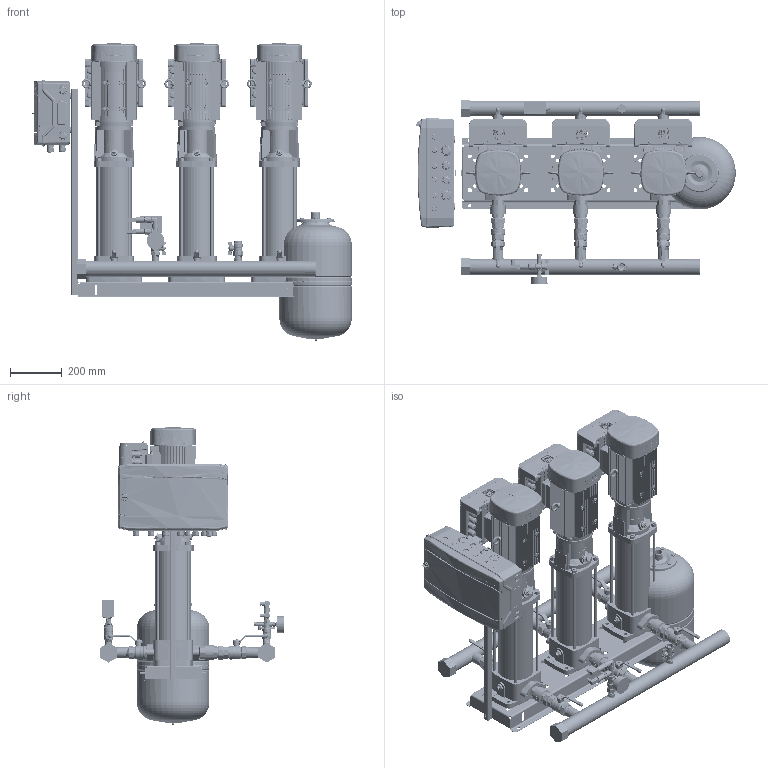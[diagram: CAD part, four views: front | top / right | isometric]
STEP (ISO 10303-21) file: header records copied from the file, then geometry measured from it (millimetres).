
FILE_DESCRIPTION(('CATIA V5 STEP Exchange','CAx-IF Rec.Pracs.--- Model Styling and Organization---1.4--- 2014-01-23','CAx-IF Rec.Pracs.---3D Tessellated Data Validation Properties---0.5---2014-09-14'),'2;1');
FILE_NAME('C:\Users\78432\YandexDisk\Drawings and 3D\3D Hydro Booster\Hydro-ME 3D\Hydro Models\Hydro ME 3 CRV3-xx\Hydro ME 3 CRVE3-21.stp','2023-09-21T10:00:26+00:00',('none'),('none'),'CATIA Version 5-6 Release 2019 SP6','CATIA V5 STEP AP242 v1','none');
FILE_SCHEMA(('AP242_MANAGED_MODEL_BASED_3D_ENGINEERING_MIM_LF {1 0 10303 442 1 1 4}'));
Products named in the file (46): Hydro ME 3 CRVE3-21; 92051012; CRV3-21 Set; CRV 3-21_A_Oval_2.2kW; Base; Flange.1; Flange.2; Sleeve; Pumphead; Staybolt.1; Staybolt.2; Staybolt.3; Staybolt.4; Plug; AirVent; Motor; 92807543_9022-04; Hydraulica NY DN32 1,25 PN16; DN32_FM_LV_47.303.32; 92814060_9013-04; SAJ PDH30 0,75-2,2kW; 97941451; 405801; 91040265; 91040272; 97941488; 00ID7526; Holder and CP 18mod; 92878909; Control ME (18mod); 2 sensors + manometer cpl.; manometr 16 bar; RPD-I-G1_2; 9021-01; 2070 1/2-1/2; _2020 1/2-1/2; 98594078; Tank 24L cpl.; DN20_FF_BF_47.300.20; WAV-24(D140 1'')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
Assembly tree (55 placements, depth 4):
  Hydro ME 3 CRVE3-21
    92051012
    CRV3-21 Set  x3
      CRV 3-21_A_Oval_2.2kW
        Base
        Flange.1
        Flange.2
        Sleeve
        Pumphead
        Staybolt.1
        Staybolt.2
        Staybolt.3
        Staybolt.4
        Plug
        AirVent
        Motor
      92807543_9022-04
      Hydraulica NY DN32 1,25 PN16
      DN32_FM_LV_47.303.32
      92814060_9013-04
      SAJ PDH30 0,75-2,2kW
    97941451  x2
      405801
      91040265
      91040272
      97941488
    00ID7526  x2
    Holder and CP 18mod
      92878909
      Control ME (18mod)
    2 sensors + manometer cpl.
      manometr 16 bar
      RPD-I-G1_2  x2
      9021-01
      2070 1/2-1/2
      _2020 1/2-1/2
      98594078
    Tank 24L cpl.
      DN20_FF_BF_47.300.20
      9021-03
    Relay cpl.
      Relay RD-2R
      DN20_FF_BF_47.300.20
      2530 3/4-1/2
      _2530 1/2-1/4
    91078139
  WAV-24(D140 1'')
Bounding box: 1236.82 x 712 x 1150.99 mm (x, y, z)
Volume: 82720871.7 mm3; surface area: 8252792.6 mm2
Topology: 221 solids, 275 shells, 27325 faces, 79750 edges, 53316 vertices
Faces by surface type: plane 11586, cylinder 6623, bspline 6444, cone 2009, torus 462, sphere 201
Entity records: 592106 total; most frequent: CARTESIAN_POINT 298529, ORIENTED_EDGE 75373, EDGE_CURVE 38168, DIRECTION 34704, VERTEX_POINT 25412, VECTOR 16070, LINE 16070, B_SPLINE_CURVE_WITH_KNOTS 15199
